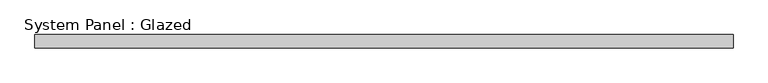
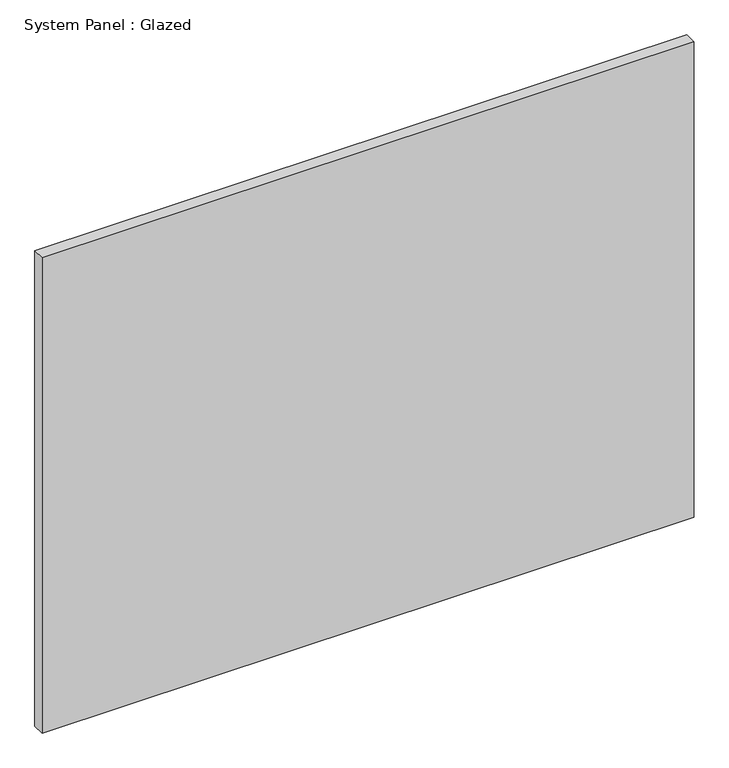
"""IFC4 building model written with IfcOpenShell, lengths in millimetres: plate geometry, System Panel : Glazed."""

from ifc_helpers import new_model, si_unit, origin, origin_with_axes, place, context, project, spatial, polyline, outline, extrude, source, transform, mapped, element, save


def system_panel_glazed_27d978d9(model_context):
    return source(origin(), model_context, "Body", "SweptSolid", [
        extrude(outline(polyline([(674.4738159, 19.05), (-674.4738159, 19.05), (-674.4738159, 44.45), (674.4738159, 44.45), (674.4738159, 19.05)])), origin_with_axes(), (0.0, 0.0, 1.0), 1038.7193103),
    ])


if __name__ == "__main__":
    model = new_model("IFC4")
    model_context = context("Model", 3, world=origin())
    ifc_project = project(units=[si_unit("LENGTHUNIT", "METRE", prefix="MILLI")], contexts=[model_context])
    site = spatial("IfcSite", under=ifc_project)
    building = spatial("IfcBuilding", under=site)
    placement = place(None, origin())
    system_panel_glazed_shape = system_panel_glazed_27d978d9(model_context)
    element("IfcPlate", 1, ObjectType="System Panel : Glazed", at=placement, inside=building, context=model_context, shape_type="MappedRepresentation", body=[
        mapped(system_panel_glazed_shape, transform((0.0, 0.0, 0.0), x_axis=(1.0, 0.0, 0.0), y_axis=(0.0, 1.0, 0.0), z_axis=(0.0, 0.0, 1.0))),
    ])
    save(model, "model.ifc")
